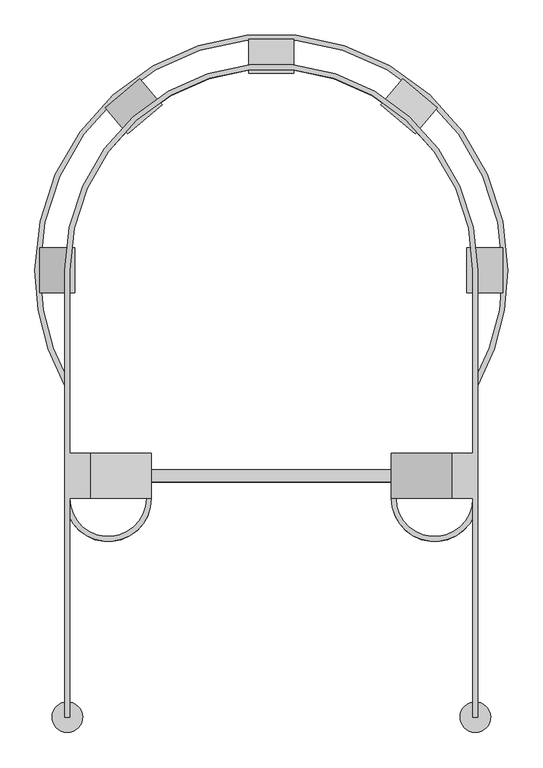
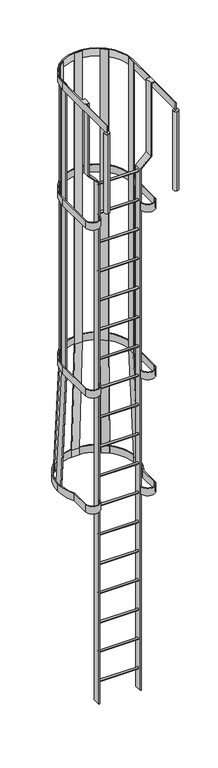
"""IFC4 building model written with IfcOpenShell, lengths in millimetres: proxy geometry, Лестница клетевой конструкции : Стандартная."""

from ifc_helpers import new_model, si_unit, point, frame, frame_2d, origin, place, context, project, spatial, polyline, circle_curve, trimmed, segment, composite_curve, outline, extrude, source, transform, mapped, element, save
from ifc_brep_helpers import plane_surface, cylinder_surface, revolved_surface, advanced_brep


def specialty_equipment_2896872f(model_context):
    return source(origin(), model_context, "Body", "SolidModel", [
        extrude(outline(composite_curve([segment(trimmed(circle_curve(frame_2d((272.0, 365.2)), 72.0), [point((344.0, 365.2))], [point((200.0, 365.2))], False, "CARTESIAN"), True, "CONTINUOUS"), segment(polyline([(200.0, 365.2), (208.0, 365.2)]), True, "CONTINUOUS"), segment(trimmed(circle_curve(frame_2d((272.0, 365.2)), 64.0), [point((208.0, 365.2))], [point((336.0, 365.2))], True, "CARTESIAN"), True, "CONTINUOUS"), segment(polyline([(336.0, 365.2), (336.0, 745.2)]), True, "CONTINUOUS"), segment(trimmed(circle_curve(frame_2d((0.0, 745.2)), 336.0), [point((336.0, 745.2))], [point((-336.0, 745.2))], True, "CARTESIAN"), True, "CONTINUOUS"), segment(polyline([(-336.0, 745.2), (-336.0, 365.2)]), True, "CONTINUOUS"), segment(trimmed(circle_curve(frame_2d((-272.0, 365.2)), 64.0), [point((-336.0, 365.2))], [point((-208.0, 365.2))], True, "CARTESIAN"), True, "CONTINUOUS"), segment(polyline([(-208.0, 365.2), (-200.0, 365.2)]), True, "CONTINUOUS"), segment(trimmed(circle_curve(frame_2d((-272.0, 365.2)), 72.0), [point((-200.0, 365.2))], [point((-344.0, 365.2))], False, "CARTESIAN"), True, "CONTINUOUS"), segment(polyline([(-344.0, 365.2), (-344.0, 745.2)]), True, "CONTINUOUS"), segment(trimmed(circle_curve(frame_2d((0.0, 745.2)), 344.0), [point((-344.0, 745.2))], [point((344.0, 745.2))], False, "CARTESIAN"), True, "CONTINUOUS"), segment(polyline([(344.0, 745.2), (344.0, 365.2)]), True, "CONTINUOUS")], self_intersect=False)), frame((0.0, 0.0, -2135.0), z_axis=(0.0, 0.0, 1.0), x_axis=(1.0, 0.0, 0.0)), (0.0, 0.0, 1.0), 75.0),
        extrude(outline(composite_curve([segment(trimmed(circle_curve(frame_2d((402.7, -5185.0)), 10.0), [point((392.7, -5185.0))], [point((412.7, -5185.0))], False, "CARTESIAN"), True, "CONTINUOUS"), segment(trimmed(circle_curve(frame_2d((402.7, -5185.0)), 10.0), [point((412.7, -5185.0))], [point((392.7, -5185.0))], False, "CARTESIAN"), True, "CONTINUOUS")], self_intersect=False)), frame((-200.0, 0.0, 0.0), z_axis=(1.0, 0.0, 0.0), x_axis=(0.0, 1.0, 0.0)), (0.0, 0.0, 1.0), 400.0),
        extrude(outline(composite_curve([segment(trimmed(circle_curve(frame_2d((402.7, -4880.0)), 10.0), [point((392.7, -4880.0))], [point((412.7, -4880.0))], False, "CARTESIAN"), True, "CONTINUOUS"), segment(trimmed(circle_curve(frame_2d((402.7, -4880.0)), 10.0), [point((412.7, -4880.0))], [point((392.7, -4880.0))], False, "CARTESIAN"), True, "CONTINUOUS")], self_intersect=False)), frame((-200.0, 0.0, 0.0), z_axis=(1.0, 0.0, 0.0), x_axis=(0.0, 1.0, 0.0)), (0.0, 0.0, 1.0), 400.0),
        extrude(outline(composite_curve([segment(trimmed(circle_curve(frame_2d((402.7, -4575.0)), 10.0), [point((392.7, -4575.0))], [point((412.7, -4575.0))], False, "CARTESIAN"), True, "CONTINUOUS"), segment(trimmed(circle_curve(frame_2d((402.7, -4575.0)), 10.0), [point((412.7, -4575.0))], [point((392.7, -4575.0))], False, "CARTESIAN"), True, "CONTINUOUS")], self_intersect=False)), frame((-200.0, 0.0, 0.0), z_axis=(1.0, 0.0, 0.0), x_axis=(0.0, 1.0, 0.0)), (0.0, 0.0, 1.0), 400.0),
        extrude(outline(composite_curve([segment(trimmed(circle_curve(frame_2d((402.7, -4270.0)), 10.0), [point((392.7, -4270.0))], [point((412.7, -4270.0))], False, "CARTESIAN"), True, "CONTINUOUS"), segment(trimmed(circle_curve(frame_2d((402.7, -4270.0)), 10.0), [point((412.7, -4270.0))], [point((392.7, -4270.0))], False, "CARTESIAN"), True, "CONTINUOUS")], self_intersect=False)), frame((-200.0, 0.0, 0.0), z_axis=(1.0, 0.0, 0.0), x_axis=(0.0, 1.0, 0.0)), (0.0, 0.0, 1.0), 400.0),
        extrude(outline(composite_curve([segment(trimmed(circle_curve(frame_2d((402.7, -3965.0)), 10.0), [point((392.7, -3965.0))], [point((412.7, -3965.0))], False, "CARTESIAN"), True, "CONTINUOUS"), segment(trimmed(circle_curve(frame_2d((402.7, -3965.0)), 10.0), [point((412.7, -3965.0))], [point((392.7, -3965.0))], False, "CARTESIAN"), True, "CONTINUOUS")], self_intersect=False)), frame((-200.0, 0.0, 0.0), z_axis=(1.0, 0.0, 0.0), x_axis=(0.0, 1.0, 0.0)), (0.0, 0.0, 1.0), 400.0),
        extrude(outline(composite_curve([segment(trimmed(circle_curve(frame_2d((402.7, -3660.0)), 10.0), [point((392.7, -3660.0))], [point((412.7, -3660.0))], False, "CARTESIAN"), True, "CONTINUOUS"), segment(trimmed(circle_curve(frame_2d((402.7, -3660.0)), 10.0), [point((412.7, -3660.0))], [point((392.7, -3660.0))], False, "CARTESIAN"), True, "CONTINUOUS")], self_intersect=False)), frame((-200.0, 0.0, 0.0), z_axis=(1.0, 0.0, 0.0), x_axis=(0.0, 1.0, 0.0)), (0.0, 0.0, 1.0), 400.0),
        extrude(outline(composite_curve([segment(trimmed(circle_curve(frame_2d((402.7, -3355.0)), 10.0), [point((392.7, -3355.0))], [point((412.7, -3355.0))], False, "CARTESIAN"), True, "CONTINUOUS"), segment(trimmed(circle_curve(frame_2d((402.7, -3355.0)), 10.0), [point((412.7, -3355.0))], [point((392.7, -3355.0))], False, "CARTESIAN"), True, "CONTINUOUS")], self_intersect=False)), frame((-200.0, 0.0, 0.0), z_axis=(1.0, 0.0, 0.0), x_axis=(0.0, 1.0, 0.0)), (0.0, 0.0, 1.0), 400.0),
        extrude(outline(composite_curve([segment(trimmed(circle_curve(frame_2d((402.7, -3050.0)), 10.0), [point((392.7, -3050.0))], [point((412.7, -3050.0))], False, "CARTESIAN"), True, "CONTINUOUS"), segment(trimmed(circle_curve(frame_2d((402.7, -3050.0)), 10.0), [point((412.7, -3050.0))], [point((392.7, -3050.0))], False, "CARTESIAN"), True, "CONTINUOUS")], self_intersect=False)), frame((-200.0, 0.0, 0.0), z_axis=(1.0, 0.0, 0.0), x_axis=(0.0, 1.0, 0.0)), (0.0, 0.0, 1.0), 400.0),
        extrude(outline(composite_curve([segment(trimmed(circle_curve(frame_2d((402.7, -2745.0)), 10.0), [point((392.7, -2745.0))], [point((412.7, -2745.0))], False, "CARTESIAN"), True, "CONTINUOUS"), segment(trimmed(circle_curve(frame_2d((402.7, -2745.0)), 10.0), [point((412.7, -2745.0))], [point((392.7, -2745.0))], False, "CARTESIAN"), True, "CONTINUOUS")], self_intersect=False)), frame((-200.0, 0.0, 0.0), z_axis=(1.0, 0.0, 0.0), x_axis=(0.0, 1.0, 0.0)), (0.0, 0.0, 1.0), 400.0),
        extrude(outline(composite_curve([segment(trimmed(circle_curve(frame_2d((402.7, -2440.0)), 10.0), [point((392.7, -2440.0))], [point((412.7, -2440.0))], False, "CARTESIAN"), True, "CONTINUOUS"), segment(trimmed(circle_curve(frame_2d((402.7, -2440.0)), 10.0), [point((412.7, -2440.0))], [point((392.7, -2440.0))], False, "CARTESIAN"), True, "CONTINUOUS")], self_intersect=False)), frame((-200.0, 0.0, 0.0), z_axis=(1.0, 0.0, 0.0), x_axis=(0.0, 1.0, 0.0)), (0.0, 0.0, 1.0), 400.0),
        extrude(outline(composite_curve([segment(trimmed(circle_curve(frame_2d((272.0, 365.2)), 72.0), [point((344.0, 365.2))], [point((200.0, 365.2))], False, "CARTESIAN"), True, "CONTINUOUS"), segment(polyline([(200.0, 365.2), (208.0, 365.2)]), True, "CONTINUOUS"), segment(trimmed(circle_curve(frame_2d((272.0, 365.2)), 64.0), [point((208.0, 365.2))], [point((336.0, 365.2))], True, "CARTESIAN"), True, "CONTINUOUS"), segment(polyline([(336.0, 365.2), (336.0, 745.2)]), True, "CONTINUOUS"), segment(trimmed(circle_curve(frame_2d((0.0, 745.2)), 336.0), [point((336.0, 745.2))], [point((-336.0, 745.2))], True, "CARTESIAN"), True, "CONTINUOUS"), segment(polyline([(-336.0, 745.2), (-336.0, 365.2)]), True, "CONTINUOUS"), segment(trimmed(circle_curve(frame_2d((-272.0, 365.2)), 64.0), [point((-336.0, 365.2))], [point((-208.0, 365.2))], True, "CARTESIAN"), True, "CONTINUOUS"), segment(polyline([(-208.0, 365.2), (-200.0, 365.2)]), True, "CONTINUOUS"), segment(trimmed(circle_curve(frame_2d((-272.0, 365.2)), 72.0), [point((-200.0, 365.2))], [point((-344.0, 365.2))], False, "CARTESIAN"), True, "CONTINUOUS"), segment(polyline([(-344.0, 365.2), (-344.0, 745.2)]), True, "CONTINUOUS"), segment(trimmed(circle_curve(frame_2d((0.0, 745.2)), 344.0), [point((-344.0, 745.2))], [point((344.0, 745.2))], False, "CARTESIAN"), True, "CONTINUOUS"), segment(polyline([(344.0, 745.2), (344.0, 365.2)]), True, "CONTINUOUS")], self_intersect=False)), frame((0.0, 0.0, -385.0), z_axis=(0.0, 0.0, 1.0), x_axis=(1.0, 0.0, 0.0)), (0.0, 0.0, 1.0), 75.0),
        extrude(outline(composite_curve([segment(trimmed(circle_curve(frame_2d((402.7, -2135.0)), 10.0), [point((392.7, -2135.0))], [point((412.7, -2135.0))], False, "CARTESIAN"), True, "CONTINUOUS"), segment(trimmed(circle_curve(frame_2d((402.7, -2135.0)), 10.0), [point((412.7, -2135.0))], [point((392.7, -2135.0))], False, "CARTESIAN"), True, "CONTINUOUS")], self_intersect=False)), frame((-200.0, 0.0, 0.0), z_axis=(1.0, 0.0, 0.0), x_axis=(0.0, 1.0, 0.0)), (0.0, 0.0, 1.0), 400.0),
        extrude(outline(composite_curve([segment(trimmed(circle_curve(frame_2d((402.7, -1830.0)), 10.0), [point((392.7, -1830.0))], [point((412.7, -1830.0))], False, "CARTESIAN"), True, "CONTINUOUS"), segment(trimmed(circle_curve(frame_2d((402.7, -1830.0)), 10.0), [point((412.7, -1830.0))], [point((392.7, -1830.0))], False, "CARTESIAN"), True, "CONTINUOUS")], self_intersect=False)), frame((-200.0, 0.0, 0.0), z_axis=(1.0, 0.0, 0.0), x_axis=(0.0, 1.0, 0.0)), (0.0, 0.0, 1.0), 400.0),
        extrude(outline(composite_curve([segment(trimmed(circle_curve(frame_2d((402.7, -1525.0)), 10.0), [point((392.7, -1525.0))], [point((412.7, -1525.0))], False, "CARTESIAN"), True, "CONTINUOUS"), segment(trimmed(circle_curve(frame_2d((402.7, -1525.0)), 10.0), [point((412.7, -1525.0))], [point((392.7, -1525.0))], False, "CARTESIAN"), True, "CONTINUOUS")], self_intersect=False)), frame((-200.0, 0.0, 0.0), z_axis=(1.0, 0.0, 0.0), x_axis=(0.0, 1.0, 0.0)), (0.0, 0.0, 1.0), 400.0),
        extrude(outline(composite_curve([segment(trimmed(circle_curve(frame_2d((402.7, -1220.0)), 10.0), [point((392.7, -1220.0))], [point((412.7, -1220.0))], False, "CARTESIAN"), True, "CONTINUOUS"), segment(trimmed(circle_curve(frame_2d((402.7, -1220.0)), 10.0), [point((412.7, -1220.0))], [point((392.7, -1220.0))], False, "CARTESIAN"), True, "CONTINUOUS")], self_intersect=False)), frame((-200.0, 0.0, 0.0), z_axis=(1.0, 0.0, 0.0), x_axis=(0.0, 1.0, 0.0)), (0.0, 0.0, 1.0), 400.0),
        extrude(outline(composite_curve([segment(trimmed(circle_curve(frame_2d((402.7, -915.0)), 10.0), [point((392.7, -915.0))], [point((412.7, -915.0))], False, "CARTESIAN"), True, "CONTINUOUS"), segment(trimmed(circle_curve(frame_2d((402.7, -915.0)), 10.0), [point((412.7, -915.0))], [point((392.7, -915.0))], False, "CARTESIAN"), True, "CONTINUOUS")], self_intersect=False)), frame((-200.0, 0.0, 0.0), z_axis=(1.0, 0.0, 0.0), x_axis=(0.0, 1.0, 0.0)), (0.0, 0.0, 1.0), 400.0),
        extrude(outline(composite_curve([segment(trimmed(circle_curve(frame_2d((402.7, -610.0)), 10.0), [point((392.7, -610.0))], [point((412.7, -610.0))], False, "CARTESIAN"), True, "CONTINUOUS"), segment(trimmed(circle_curve(frame_2d((402.7, -610.0)), 10.0), [point((412.7, -610.0))], [point((392.7, -610.0))], False, "CARTESIAN"), True, "CONTINUOUS")], self_intersect=False)), frame((-200.0, 0.0, 0.0), z_axis=(1.0, 0.0, 0.0), x_axis=(0.0, 1.0, 0.0)), (0.0, 0.0, 1.0), 400.0),
        extrude(outline(composite_curve([segment(trimmed(circle_curve(frame_2d((402.7, -305.0)), 10.0), [point((392.7, -305.0))], [point((412.7, -305.0))], False, "CARTESIAN"), True, "CONTINUOUS"), segment(trimmed(circle_curve(frame_2d((402.7, -305.0)), 10.0), [point((412.7, -305.0))], [point((392.7, -305.0))], False, "CARTESIAN"), True, "CONTINUOUS")], self_intersect=False)), frame((-200.0, 0.0, 0.0), z_axis=(1.0, 0.0, 0.0), x_axis=(0.0, 1.0, 0.0)), (0.0, 0.0, 1.0), 400.0),
        extrude(outline(composite_curve([segment(trimmed(circle_curve(frame_2d((402.7, 0.0)), 10.0), [point((392.7, 0.0))], [point((412.7, 0.0))], False, "CARTESIAN"), True, "CONTINUOUS"), segment(trimmed(circle_curve(frame_2d((402.7, 0.0)), 10.0), [point((412.7, 0.0))], [point((392.7, 0.0))], False, "CARTESIAN"), True, "CONTINUOUS")], self_intersect=False)), frame((-200.0, 0.0, 0.0), z_axis=(1.0, 0.0, 0.0), x_axis=(0.0, 1.0, 0.0)), (0.0, 0.0, 1.0), 400.0),
        advanced_brep(
        [(-336.03125, 0.0, 900.0), (-344.03125, 0.0, 900.0), (-344.03125, 0.0, 825.0), (-336.03125, 0.0, 825.0), (-336.03125, 365.2, 900.0), (-301.6, 365.2, 900.0), (-301.6, 440.2, 900.0), (-336.03125, 440.2, 900.0), (-336.03125, 745.2, 900.0), (336.03125, 745.2, 900.0), (336.03125, 440.2, 900.0), (301.6, 440.2, 900.0), (301.6, 365.2, 900.0), (336.03125, 365.2, 900.0), (336.03125, 0.0, 900.0), (344.03125, 0.0, 900.0), (344.03125, 745.2, 900.0), (-344.03125, 745.2, 900.0), (-344.03125, 745.2, 825.0), (-344.03125, 25.0780586, 825.0), (344.03125, 745.2, 825.0), (344.03125, 25.0780586, 825.0), (340.0, 25.4, 825.0), (336.03125, 25.0880255, 825.0), (336.03125, 745.2, 825.0), (-336.03125, 745.2, 825.0), (-336.03125, 25.0880255, 825.0), (-340.0, 25.4, 825.0), (-336.03125, 440.2, 890.0), (-336.03125, 365.2, 890.0), (336.03125, 0.0, 825.0), (344.03125, 0.0, 825.0), (336.03125, 365.2, 890.0), (336.03125, 440.2, 890.0), (301.6, 365.2, 137.4921356), (200.0, 365.2, 35.8921356), (200.0, 365.2, -5400.0), (210.0, 365.2, -5400.0), (210.0, 365.2, 31.75), (311.6, 365.2, 133.35), (311.6, 365.2, 890.0), (311.6, 440.2, 890.0), (311.6, 440.2, 133.35), (210.0, 440.2, 31.75), (210.0, 440.2, -5400.0), (200.0, 440.2, -5400.0), (200.0, 440.2, 35.8921356), (301.6, 440.2, 137.4921356), (-311.6, 365.2, 890.0), (-311.6, 365.2, 133.35), (-210.0, 365.2, 31.75), (-210.0, 365.2, -5400.0), (-200.0, 365.2, -5400.0), (-200.0, 365.2, 35.8921356), (-301.6, 365.2, 137.4921356), (-301.6, 440.2, 137.4921356), (-200.0, 440.2, 35.8921356), (-200.0, 440.2, -5400.0), (-210.0, 440.2, -5400.0), (-210.0, 440.2, 31.75), (-311.6, 440.2, 133.35), (-311.6, 440.2, 890.0), (-340.0, 25.4, 0.0), (-340.0, -25.4, 0.0), (-340.0, -25.4, 825.0), (340.0, 25.4, 0.0), (340.0, -25.4, 0.0), (340.0, -25.4, 825.0)],
        [
            (0, 1),
            (1, 2),
            (2, 3),
            (3, 0),
            (0, 4),
            (4, 5),
            (5, 6),
            (6, 7),
            (7, 8),
            (8, 9, circle_curve(frame((0.0, 745.2, 900.0), z_axis=(0.0, 0.0, -1.0), x_axis=(-1.0, 0.0, 0.0)), 336.03125)),
            (9, 10),
            (10, 11),
            (11, 12),
            (12, 13),
            (13, 14),
            (14, 15),
            (15, 16),
            (16, 17, circle_curve(frame((0.0, 745.2, 900.0), z_axis=(0.0, 0.0, 1.0), x_axis=(-1.0, 0.0, 0.0)), 344.03125)),
            (17, 1),
            (17, 18),
            (18, 19),
            (19, 2),
            (18, 20, circle_curve(frame((0.0, 745.2, 825.0), z_axis=(0.0, 0.0, -1.0), x_axis=(-1.0, 0.0, 0.0)), 344.03125)),
            (20, 21),
            (21, 22, circle_curve(frame((340.0, 0.0, 825.0), z_axis=(0.0, 0.0, 1.0), x_axis=(0.0, -1.0, 0.0)), 25.4)),
            (22, 23, circle_curve(frame((340.0, 0.0, 825.0), z_axis=(0.0, 0.0, 1.0), x_axis=(0.0, -1.0, 0.0)), 25.4)),
            (23, 24),
            (24, 25, circle_curve(frame((0.0, 745.2, 825.0), z_axis=(0.0, 0.0, 1.0), x_axis=(-1.0, 0.0, 0.0)), 336.03125)),
            (25, 26),
            (26, 27, circle_curve(frame((-340.0, 0.0, 825.0), z_axis=(0.0, 0.0, 1.0), x_axis=(0.0, -1.0, 0.0)), 25.4)),
            (27, 19, circle_curve(frame((-340.0, 0.0, 825.0), z_axis=(0.0, 0.0, 1.0), x_axis=(0.0, -1.0, 0.0)), 25.4)),
            (3, 26),
            (25, 8),
            (7, 28),
            (28, 29),
            (29, 4),
            (16, 20),
            (24, 9),
            (14, 30),
            (30, 31),
            (31, 15),
            (31, 21),
            (23, 30),
            (13, 32),
            (32, 33),
            (33, 10),
            (12, 34),
            (34, 35),
            (35, 36),
            (36, 37),
            (37, 38),
            (38, 39),
            (39, 40),
            (40, 32),
            (41, 42),
            (42, 43),
            (43, 44),
            (44, 45),
            (45, 46),
            (46, 47),
            (47, 11),
            (33, 41),
            (47, 34),
            (46, 35),
            (45, 36),
            (44, 37),
            (43, 38),
            (42, 39),
            (41, 40),
            (48, 49),
            (49, 50),
            (50, 51),
            (51, 52),
            (52, 53),
            (53, 54),
            (54, 5),
            (29, 48),
            (6, 55),
            (55, 56),
            (56, 57),
            (57, 58),
            (58, 59),
            (59, 60),
            (60, 61),
            (61, 28),
            (48, 61),
            (60, 49),
            (59, 50),
            (58, 51),
            (57, 52),
            (56, 53),
            (55, 54),
            (62, 63, circle_curve(frame((-340.0, 0.0, 0.0), z_axis=(0.0, 0.0, -1.0), x_axis=(0.0, -1.0, 0.0)), 25.4)),
            (63, 62, circle_curve(frame((-340.0, 0.0, 0.0), z_axis=(0.0, 0.0, -1.0), x_axis=(0.0, -1.0, 0.0)), 25.4)),
            (19, 64, circle_curve(frame((-340.0, 0.0, 825.0), z_axis=(0.0, 0.0, 1.0), x_axis=(0.0, -1.0, 0.0)), 25.4)),
            (64, 26, circle_curve(frame((-340.0, 0.0, 825.0), z_axis=(0.0, 0.0, 1.0), x_axis=(0.0, -1.0, 0.0)), 25.4)),
            (62, 27),
            (64, 63),
            (65, 66, circle_curve(frame((340.0, 0.0, 0.0), z_axis=(0.0, 0.0, -1.0), x_axis=(0.0, -1.0, 0.0)), 25.4)),
            (66, 65, circle_curve(frame((340.0, 0.0, 0.0), z_axis=(0.0, 0.0, -1.0), x_axis=(0.0, -1.0, 0.0)), 25.4)),
            (67, 21, circle_curve(frame((340.0, 0.0, 825.0), z_axis=(0.0, 0.0, 1.0), x_axis=(0.0, -1.0, 0.0)), 25.4)),
            (23, 67, circle_curve(frame((340.0, 0.0, 825.0), z_axis=(0.0, 0.0, 1.0), x_axis=(0.0, -1.0, 0.0)), 25.4)),
            (65, 22),
            (67, 66),
        ],
        [
            plane_surface(frame((-340.0, 0.0, 0.0), z_axis=(0.0, -1.0, 0.0), x_axis=(0.0, 0.0, 1.0))),
            plane_surface(frame((-336.03125, 0.0, 900.0), z_axis=(0.0, 0.0, 1.0), x_axis=(0.0, 1.0, 0.0))),
            plane_surface(frame((-344.03125, 0.0, 900.0), z_axis=(-1.0, 0.0, 0.0), x_axis=(0.0, 1.0, 0.0))),
            plane_surface(frame((-344.03125, 0.0, 825.0), z_axis=(0.0, 0.0, -1.0), x_axis=(0.0, 1.0, 0.0))),
            plane_surface(frame((-336.03125, 0.0, 825.0), z_axis=(1.0, 0.0, 0.0), x_axis=(0.0, 1.0, 0.0))),
            cylinder_surface(frame((0.0, 745.2, 0.0), z_axis=(0.0, 0.0, -1.0), x_axis=(-1.0, 0.0, 0.0)), 344.03125),
            revolved_surface(polyline([(-336.03125, 745.2, 825.0), (-336.03125, 745.2, 900.0)]), (0.0, 745.2, 0.0), (0.0, 0.0, -1.0)),
            plane_surface(frame((340.0, 0.0, 0.0), z_axis=(0.0, -1.0, 0.0), x_axis=(0.0, 0.0, 1.0))),
            plane_surface(frame((344.03125, 745.2, 900.0), z_axis=(1.0, 0.0, 0.0), x_axis=(0.0, -1.0, 0.0))),
            plane_surface(frame((336.03125, 745.2, 825.0), z_axis=(-1.0, 0.0, 0.0), x_axis=(0.0, -1.0, 0.0))),
            plane_surface(frame((270.9170109, 365.2, 0.0), z_axis=(0.0, -1.0, 0.0), x_axis=(0.0, 0.0, 1.0))),
            plane_surface(frame((270.9170109, 440.2, 0.0), z_axis=(0.0, 1.0, 0.0), x_axis=(0.0, 0.0, 1.0))),
            plane_surface(frame((301.6, 365.2, 900.0), z_axis=(-1.0, 0.0, 0.0), x_axis=(0.0, 1.0, 0.0))),
            plane_surface(frame((301.6, 365.2, 137.4921356), z_axis=(-0.7071067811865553, 0.0, 0.7071067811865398), x_axis=(0.0, 1.0, 0.0))),
            plane_surface(frame((200.0, 365.2, 35.8921356), z_axis=(-1.0, 0.0, 0.0), x_axis=(0.0, 1.0, 0.0))),
            plane_surface(frame((200.0, 365.2, -5400.0), z_axis=(0.0, 0.0, -1.0), x_axis=(0.0, 1.0, 0.0))),
            plane_surface(frame((210.0, 365.2, -5400.0), z_axis=(1.0, 0.0, 0.0), x_axis=(0.0, 1.0, 0.0))),
            plane_surface(frame((210.0, 365.2, 31.75), z_axis=(0.707106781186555, 0.0, -0.7071067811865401), x_axis=(0.0, 1.0, 0.0))),
            plane_surface(frame((311.6, 365.2, 133.35), z_axis=(1.0, 0.0, 0.0), x_axis=(0.0, 1.0, 0.0))),
            plane_surface(frame((311.6, 365.2, 890.0), z_axis=(0.0, 0.0, -1.0), x_axis=(0.0, 1.0, 0.0))),
            plane_surface(frame((-514.625, 365.2, 0.0), z_axis=(0.0, -1.0, 0.0), x_axis=(0.0, 0.0, 1.0))),
            plane_surface(frame((-514.625, 440.2, 0.0), z_axis=(0.0, 1.0, 0.0), x_axis=(0.0, 0.0, 1.0))),
            plane_surface(frame((-311.6, 365.2, 890.0), z_axis=(-1.0, 0.0, 0.0), x_axis=(0.0, 1.0, 0.0))),
            plane_surface(frame((-311.6, 365.2, 133.35), z_axis=(-0.7071067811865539, 0.0, -0.7071067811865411), x_axis=(0.0, 1.0, 0.0))),
            plane_surface(frame((-210.0, 365.2, 31.75), z_axis=(-1.0, 0.0, 0.0), x_axis=(0.0, 1.0, 0.0))),
            plane_surface(frame((-210.0, 365.2, -5400.0), z_axis=(0.0, 0.0, -1.0), x_axis=(0.0, 1.0, 0.0))),
            plane_surface(frame((-200.0, 365.2, -5400.0), z_axis=(1.0, 0.0, 0.0), x_axis=(0.0, 1.0, 0.0))),
            plane_surface(frame((-200.0, 365.2, 35.8921356), z_axis=(0.7071067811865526, 0.0, 0.7071067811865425), x_axis=(0.0, 1.0, 0.0))),
            plane_surface(frame((-301.6, 365.2, 137.4921356), z_axis=(1.0, 0.0, 0.0), x_axis=(0.0, 1.0, 0.0))),
            plane_surface(frame((-340.0, 365.2, 890.0), z_axis=(0.0, 0.0, -1.0), x_axis=(0.0, 1.0, 0.0))),
            plane_surface(frame((0.0, -25.4, 0.0), z_axis=(0.0, 0.0, -1.0), x_axis=(1.0, 0.0, 0.0))),
            plane_surface(frame((0.0, -25.4, 825.0), z_axis=(0.0, 0.0, 1.0), x_axis=(1.0, 0.0, 0.0))),
            cylinder_surface(frame((-340.0, 0.0, 0.0), z_axis=(0.0, 0.0, -1.0), x_axis=(0.0, -1.0, 0.0)), 25.4),
            cylinder_surface(frame((340.0, 0.0, 0.0), z_axis=(0.0, 0.0, -1.0), x_axis=(0.0, -1.0, 0.0)), 25.4),
        ],
        [
            (0, [[1, 2, 3, 4]]),
            (1, [[-1, 5, 6, 7, 8, 9, 10, 11, 12, 13, 14, 15, 16, 17, 18, 19]]),
            (2, [[-2, -19, 20, 21, 22]]),
            (3, [[23, 24, 25, 26, 27, 28, 29, 30, 31, -21]]),
            (4, [[-4, 32, -29, 33, -9, 34, 35, 36, -5]]),
            (5, [[-18, 37, -23, -20]]),
            (6, [[-10, -33, -28, 38]]),
            (7, [[-16, 39, 40, 41]]),
            (8, [[-17, -41, 42, -24, -37]]),
            (9, [[-38, -27, 43, -39, -15, 44, 45, 46, -11]]),
            (10, [[47, 48, 49, 50, 51, 52, 53, 54, -44, -14]]),
            (11, [[55, 56, 57, 58, 59, 60, 61, -12, -46, 62]]),
            (12, [[-47, -13, -61, 63]]),
            (13, [[-48, -63, -60, 64]]),
            (14, [[-49, -64, -59, 65]]),
            (15, [[-50, -65, -58, 66]]),
            (16, [[-51, -66, -57, 67]]),
            (17, [[-52, -67, -56, 68]]),
            (18, [[-53, -68, -55, 69]]),
            (19, [[-69, -62, -45, -54]]),
            (20, [[70, 71, 72, 73, 74, 75, 76, -6, -36, 77]]),
            (21, [[78, 79, 80, 81, 82, 83, 84, 85, -34, -8]]),
            (22, [[-70, 86, -84, 87]]),
            (23, [[-71, -87, -83, 88]]),
            (24, [[-72, -88, -82, 89]]),
            (25, [[-73, -89, -81, 90]]),
            (26, [[-74, -90, -80, 91]]),
            (27, [[-75, -91, -79, 92]]),
            (28, [[-76, -92, -78, -7]]),
            (29, [[-86, -77, -35, -85]]),
            (30, [[93, 94]]),
            (31, [[95, 96, -32, -3, -22]]),
            (32, [[-93, 97, -30, -96, 98]]),
            (32, [[-94, -98, -95, -31, -97]]),
            (30, [[99, 100]]),
            (31, [[101, -42, -40, -43, 102]]),
            (33, [[-99, 103, -25, -101, 104]]),
            (33, [[-100, -104, -102, -26, -103]]),
        ],
    ),
        extrude(outline(polyline([(0.0, -8.0), (0.0, 0.0), (3035.176126, 0.0), (4170.176126, -50.0), (4245.0, -50.0), (4245.0, -58.0), (4170.0, -58.0), (3035.0, -8.0), (0.0, -8.0)])), frame((239.5610026, 972.358042, 900.0), z_axis=(-0.7660444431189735, 0.6427876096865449, 0.0), x_axis=(0.0, 0.0, -1.0)), (0.0, 0.0, 1.0), 75.0),
        extrude(outline(polyline([(0.0, -8.0000001), (0.0, 0.0), (3035.0, 0.0), (4170.0, 49.9999999), (4245.0, 49.9999999), (4245.0, 41.9999999), (4170.176126, 41.9999999), (3035.176126, -8.0000001), (0.0, -8.0000001)])), frame((-244.7230809, 978.4656505, 900.0), z_axis=(0.7659899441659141, 0.6428525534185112, 0.0), x_axis=(0.0, 0.0, -1.0)), (0.0, 0.0, 1.0), 75.0),
        extrude(outline(polyline([(1073.2, 900.0), (1081.2, 900.0), (1081.2, -2135.0), (1131.2, -3270.0), (1131.2, -3345.0), (1123.2, -3345.0), (1123.2, -3270.176126), (1073.2, -2135.176126), (1073.2, 900.0)])), frame((-37.5, 0.0, 0.0), z_axis=(1.0, 0.0, 0.0), x_axis=(0.0, 1.0, 0.0)), (0.0, 0.0, 1.0), 75.0),
        extrude(outline(polyline([(900.0, -328.0), (900.0, -336.0), (-2135.0, -336.0), (-3270.0, -386.0), (-3345.0, -386.0), (-3345.0, -378.0), (-3270.176126, -378.0), (-2135.176126, -328.0), (900.0, -328.0)])), frame((0.0, 707.7, 0.0), z_axis=(0.0, 1.0, 0.0), x_axis=(0.0, 0.0, 1.0)), (0.0, 0.0, 1.0), 75.0),
        extrude(outline(polyline([(900.0, 336.03125), (900.0, 326.03125), (-2135.2194696, 326.03125), (-3270.2194696, 376.03125), (-3345.0, 376.03125), (-3345.0, 386.03125), (-3269.999312, 386.03125), (-2134.999312, 336.03125), (900.0, 336.03125)])), frame((0.0, 707.7, 0.0), z_axis=(0.0, 1.0, 0.0), x_axis=(0.0, 0.0, 1.0)), (0.0, 0.0, 1.0), 75.0),
        extrude(outline(composite_curve([segment(trimmed(circle_curve(frame_2d((0.0, 745.2)), 394.03125), [point((394.03125, 745.2))], [point((344.03125, 553.098139))], False, "CARTESIAN"), True, "CONTINUOUS"), segment(polyline([(344.03125, 553.098139), (344.03125, 365.2)]), True, "CONTINUOUS"), segment(trimmed(circle_curve(frame_2d((272.0, 365.2)), 72.03125), [point((344.03125, 365.2))], [point((199.96875, 365.2))], False, "CARTESIAN"), True, "CONTINUOUS"), segment(polyline([(199.96875, 365.2), (207.96875, 365.2)]), True, "CONTINUOUS"), segment(trimmed(circle_curve(frame_2d((272.0, 365.2)), 64.03125), [point((207.96875, 365.2))], [point((336.03125, 365.2))], True, "CARTESIAN"), True, "CONTINUOUS"), segment(polyline([(336.03125, 365.2), (336.03125, 555.1917765)]), True, "CONTINUOUS"), segment(trimmed(circle_curve(frame_2d((0.0, 745.2)), 386.03125), [point((336.03125, 555.1917765))], [point((386.03125, 745.2))], True, "CARTESIAN"), True, "CONTINUOUS"), segment(trimmed(circle_curve(frame_2d((0.0, 745.2)), 386.03125), [point((386.03125, 745.2))], [point((-386.03125, 745.2))], True, "CARTESIAN"), True, "CONTINUOUS"), segment(trimmed(circle_curve(frame_2d((0.0, 745.2)), 386.03125), [point((-386.03125, 745.2))], [point((-336.03125, 555.1917765))], True, "CARTESIAN"), True, "CONTINUOUS"), segment(polyline([(-336.03125, 555.1917765), (-336.03125, 365.2)]), True, "CONTINUOUS"), segment(trimmed(circle_curve(frame_2d((-272.0, 365.2)), 64.03125), [point((-336.03125, 365.2))], [point((-207.96875, 365.2))], True, "CARTESIAN"), True, "CONTINUOUS"), segment(polyline([(-207.96875, 365.2), (-199.96875, 365.2)]), True, "CONTINUOUS"), segment(trimmed(circle_curve(frame_2d((-272.0, 365.2)), 72.03125), [point((-199.96875, 365.2))], [point((-344.03125, 365.2))], False, "CARTESIAN"), True, "CONTINUOUS"), segment(polyline([(-344.03125, 365.2), (-344.03125, 553.098139)]), True, "CONTINUOUS"), segment(trimmed(circle_curve(frame_2d((0.0, 745.2)), 394.03125), [point((-344.03125, 553.098139))], [point((-394.03125, 745.2))], False, "CARTESIAN"), True, "CONTINUOUS"), segment(trimmed(circle_curve(frame_2d((0.0, 745.2)), 394.03125), [point((-394.03125, 745.2))], [point((394.03125, 745.2))], False, "CARTESIAN"), True, "CONTINUOUS")], self_intersect=False)), frame((0.0, 0.0, -3345.0), z_axis=(0.0, 0.0, 1.0), x_axis=(1.0, 0.0, 0.0)), (0.0, 0.0, 1.0), 75.0),
    ])


if __name__ == "__main__":
    model = new_model("IFC4")
    model_context = context("Model", 3, world=origin())
    ifc_project = project(units=[si_unit("LENGTHUNIT", "METRE", prefix="MILLI")], contexts=[model_context])
    site = spatial("IfcSite", under=ifc_project)
    building = spatial("IfcBuilding", under=site)
    placement = place(None, origin())
    specialty_equipment_shape = specialty_equipment_2896872f(model_context)
    element("IfcBuildingElementProxy", 1, Name="Лестница клетевой конструкции : Стандартная", ObjectType="Лестница клетевой конструкции : Стандартная", at=placement, inside=building, context=model_context, shape_type="MappedRepresentation", body=[
        mapped(specialty_equipment_shape, transform((0.0, 0.0, 0.0), x_axis=(1.0, 0.0, 0.0), y_axis=(0.0, 1.0, 0.0), z_axis=(0.0, 0.0, 1.0))),
    ])
    save(model, "model.ifc")
